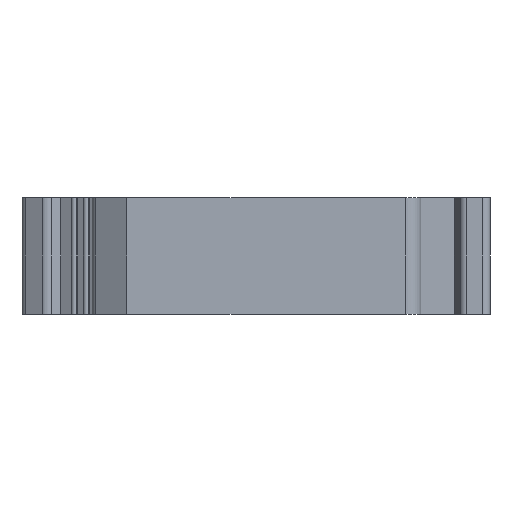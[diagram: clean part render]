
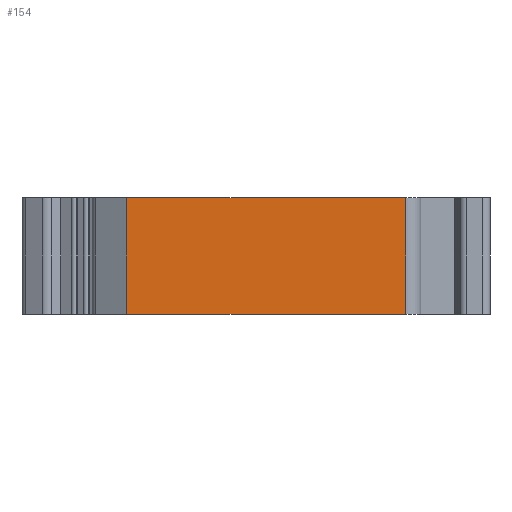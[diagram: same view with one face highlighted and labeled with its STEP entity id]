
A CAD part, left-side view. The second image highlights one B-rep face of the part: STEP entity #154.
In plain terms, the highlighted planar face has unit normal (-1, 0, 0).
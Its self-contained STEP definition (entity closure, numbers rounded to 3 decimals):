
#154=ADVANCED_FACE('',(#376),#279,.T.);
#279=PLANE('',#2635);
#376=FACE_OUTER_BOUND('',#504,.T.);
#504=EDGE_LOOP('',(#671,#672,#673,#674));
#671=ORIENTED_EDGE('',*,*,#1667,.F.);
#672=ORIENTED_EDGE('',*,*,#1666,.F.);
#673=ORIENTED_EDGE('',*,*,#1668,.T.);
#674=ORIENTED_EDGE('',*,*,#1669,.T.);
#1401=VERTEX_POINT('',#3588);
#1402=VERTEX_POINT('',#3590);
#1403=VERTEX_POINT('',#3594);
#1404=VERTEX_POINT('',#3596);
#1666=EDGE_CURVE('',#1402,#1401,#2038,.T.);
#1667=EDGE_CURVE('',#1401,#1403,#2039,.T.);
#1668=EDGE_CURVE('',#1402,#1404,#2040,.T.);
#1669=EDGE_CURVE('',#1404,#1403,#2041,.T.);
#2038=LINE('',#3591,#2343);
#2039=LINE('',#3593,#2344);
#2040=LINE('',#3595,#2345);
#2041=LINE('',#3597,#2346);
#2343=VECTOR('',#2883,1.);
#2344=VECTOR('',#2886,1.);
#2345=VECTOR('',#2887,1.);
#2346=VECTOR('',#2888,1.);
#2635=AXIS2_PLACEMENT_3D('',#3598,#2889,#2890);
#2883=DIRECTION('',(0.,0.,1.));
#2886=DIRECTION('',(0.,-1.,0.));
#2887=DIRECTION('',(0.,-1.,0.));
#2888=DIRECTION('',(0.,0.,1.));
#2889=DIRECTION('',(-1.,0.,0.));
#2890=DIRECTION('',(0.,-1.,0.));
#3588=CARTESIAN_POINT('',(-660.026,-3138.885,0.));
#3590=CARTESIAN_POINT('',(-660.026,-3138.885,-15.2));
#3591=CARTESIAN_POINT('',(-660.026,-3138.885,-15.2));
#3593=CARTESIAN_POINT('',(-660.026,-3138.885,0.));
#3594=CARTESIAN_POINT('',(-660.026,-3175.385,0.));
#3595=CARTESIAN_POINT('',(-660.026,-3138.885,-15.2));
#3596=CARTESIAN_POINT('',(-660.026,-3175.385,-15.2));
#3597=CARTESIAN_POINT('',(-660.026,-3175.385,-15.2));
#3598=CARTESIAN_POINT('',(-660.026,-3138.885,-15.2));
